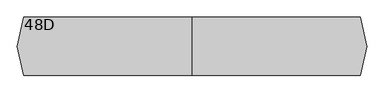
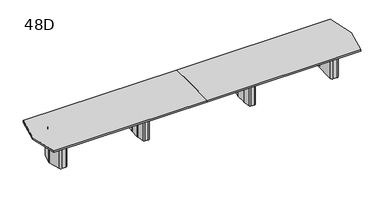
"""IFC4 building model written with IfcOpenShell, lengths in millimetres: furniture geometry, Coalesse_AM_Table_Conference_ETable2_Faceted_24ft_FourBase : 48D."""

from ifc_helpers import new_model, si_unit, frame, origin, place, context, project, spatial, polyline, circle_curve, outline, extrude, source, transform, mapped, element, save
from ifc_brep_helpers import plane_surface, cylinder_surface, revolved_surface, advanced_brep


def furniture_48d_a914894a(model_context):
    return source(origin(), model_context, "Body", "SolidModel", [
        advanced_brep(
        [(1254.91875, 206.375, 3.175), (1229.51875, 231.775, 3.175), (1208.88125, 231.775, 3.175), (1183.48125, 206.375, 3.175), (1183.48125, -206.375, 3.175), (1208.88125, -231.775, 3.175), (1229.51875, -231.775, 3.175), (1254.91875, -206.375, 3.175), (1158.08125, 206.375, 0.0), (1208.88125, 257.175, 0.0), (1229.51875, 257.175, 0.0), (1280.31875, 206.375, 0.0), (1280.31875, -206.375, 0.0), (1229.51875, -257.175, 0.0), (1208.88125, -257.175, 0.0), (1158.08125, -206.375, 0.0), (1158.08125, -206.375, 3.175), (1158.08125, 206.375, 3.175), (1208.88125, -257.175, 3.175), (1229.51875, -257.175, 3.175), (1280.31875, -206.375, 3.175), (1280.31875, 206.375, 3.175), (1229.51875, 257.175, 3.175), (1208.88125, 257.175, 3.175), (1126.5784026, 106.2976848, 698.5), (1126.33125, 102.7629613, 698.5), (1126.33125, -102.7629613, 698.5), (1126.5784026, -106.2976848, 698.5), (1151.4011625, -282.9347235, 698.5), (1176.5540098, -304.8, 698.5), (1261.8459902, -304.8, 698.5), (1286.9988375, -282.9347235, 698.5), (1311.8215974, -106.2976848, 698.5), (1312.06875, -102.7629613, 698.5), (1312.06875, 102.7629613, 698.5), (1311.8215974, 106.2976848, 698.5), (1286.9988375, 282.9347235, 698.5), (1261.8459902, 304.8, 698.5), (1176.5540098, 304.8, 698.5), (1151.4011625, 282.9347235, 698.5), (1229.51875, 231.775, 698.5), (1254.91875, 206.375, 698.5), (1254.91875, -206.375, 698.5), (1229.51875, -231.775, 698.5), (1208.88125, -231.775, 698.5), (1183.48125, -206.375, 698.5), (1183.48125, 206.375, 698.5), (1208.88125, 231.775, 698.5), (1126.5784026, 106.2976848, 3.175), (1151.4011625, 282.9347235, 3.175), (1176.5540098, 304.8, 3.175), (1261.8459902, 304.8, 3.175), (1286.9988375, 282.9347235, 3.175), (1311.8215974, 106.2976848, 3.175), (1312.06875, 102.7629613, 3.175), (1312.06875, -102.7629613, 3.175), (1311.8215974, -106.2976848, 3.175), (1286.9988375, -282.9347235, 3.175), (1261.8459902, -304.8, 3.175), (1176.5540098, -304.8, 3.175), (1151.4011625, -282.9347235, 3.175), (1126.5784026, -106.2976848, 3.175), (1126.33125, -102.7629613, 3.175), (1126.33125, 102.7629613, 3.175)],
        [
            (0, 1, circle_curve(frame((1229.51875, 206.375, 3.175), z_axis=(0.0, 0.0, 1.0), x_axis=(1.0, 0.0, 0.0)), 25.4)),
            (1, 2),
            (2, 3, circle_curve(frame((1208.88125, 206.375, 3.175), z_axis=(0.0, 0.0, 1.0), x_axis=(1.0, 0.0, 0.0)), 25.4)),
            (3, 4),
            (4, 5, circle_curve(frame((1208.88125, -206.375, 3.175), z_axis=(0.0, 0.0, 1.0), x_axis=(1.0, 0.0, 0.0)), 25.4)),
            (5, 6),
            (6, 7, circle_curve(frame((1229.51875, -206.375, 3.175), z_axis=(0.0, 0.0, 1.0), x_axis=(1.0, 0.0, 0.0)), 25.4)),
            (7, 0),
            (8, 9, circle_curve(frame((1208.88125, 206.375, 0.0), z_axis=(0.0, 0.0, -1.0), x_axis=(1.0, 0.0, 0.0)), 50.8)),
            (9, 10),
            (10, 11, circle_curve(frame((1229.51875, 206.375, 0.0), z_axis=(0.0, 0.0, -1.0), x_axis=(1.0, 0.0, 0.0)), 50.8)),
            (11, 12),
            (12, 13, circle_curve(frame((1229.51875, -206.375, 0.0), z_axis=(0.0, 0.0, -1.0), x_axis=(1.0, 0.0, 0.0)), 50.8)),
            (13, 14),
            (14, 15, circle_curve(frame((1208.88125, -206.375, 0.0), z_axis=(0.0, 0.0, -1.0), x_axis=(1.0, 0.0, 0.0)), 50.8)),
            (15, 8),
            (15, 16),
            (16, 17),
            (17, 8),
            (14, 18),
            (18, 16, circle_curve(frame((1208.88125, -206.375, 3.175), z_axis=(0.0, 0.0, -1.0), x_axis=(1.0, 0.0, 0.0)), 50.8)),
            (13, 19),
            (19, 18),
            (12, 20),
            (20, 19, circle_curve(frame((1229.51875, -206.375, 3.175), z_axis=(0.0, 0.0, -1.0), x_axis=(1.0, 0.0, 0.0)), 50.8)),
            (11, 21),
            (21, 20),
            (10, 22),
            (22, 21, circle_curve(frame((1229.51875, 206.375, 3.175), z_axis=(0.0, 0.0, -1.0), x_axis=(1.0, 0.0, 0.0)), 50.8)),
            (9, 23),
            (23, 22),
            (17, 23, circle_curve(frame((1208.88125, 206.375, 3.175), z_axis=(0.0, 0.0, -1.0), x_axis=(1.0, 0.0, 0.0)), 50.8)),
            (24, 25, circle_curve(frame((1151.73125, 102.7629613, 698.5), z_axis=(0.0, 0.0, 1.0), x_axis=(1.0, 0.0, 0.0)), 25.4)),
            (25, 26),
            (26, 27, circle_curve(frame((1151.73125, -102.7629613, 698.5), z_axis=(0.0, 0.0, 1.0), x_axis=(1.0, 0.0, 0.0)), 25.4)),
            (27, 28),
            (28, 29, circle_curve(frame((1176.5540098, -279.4, 698.5), z_axis=(0.0, 0.0, 1.0), x_axis=(1.0, 0.0, 0.0)), 25.4)),
            (29, 30),
            (30, 31, circle_curve(frame((1261.8459902, -279.4, 698.5), z_axis=(0.0, 0.0, 1.0), x_axis=(1.0, 0.0, 0.0)), 25.4)),
            (31, 32),
            (32, 33, circle_curve(frame((1286.66875, -102.7629613, 698.5), z_axis=(0.0, 0.0, 1.0), x_axis=(1.0, 0.0, 0.0)), 25.4)),
            (33, 34),
            (34, 35, circle_curve(frame((1286.66875, 102.7629613, 698.5), z_axis=(0.0, 0.0, 1.0), x_axis=(1.0, 0.0, 0.0)), 25.4)),
            (35, 36),
            (36, 37, circle_curve(frame((1261.8459902, 279.4, 698.5), z_axis=(0.0, 0.0, 1.0), x_axis=(1.0, 0.0, 0.0)), 25.4)),
            (37, 38),
            (38, 39, circle_curve(frame((1176.5540098, 279.4, 698.5), z_axis=(0.0, 0.0, 1.0), x_axis=(1.0, 0.0, 0.0)), 25.4)),
            (39, 24),
            (40, 41, circle_curve(frame((1229.51875, 206.375, 698.5), z_axis=(0.0, 0.0, -1.0), x_axis=(1.0, 0.0, 0.0)), 25.4)),
            (41, 42),
            (42, 43, circle_curve(frame((1229.51875, -206.375, 698.5), z_axis=(0.0, 0.0, -1.0), x_axis=(1.0, 0.0, 0.0)), 25.4)),
            (43, 44),
            (44, 45, circle_curve(frame((1208.88125, -206.375, 698.5), z_axis=(0.0, 0.0, -1.0), x_axis=(1.0, 0.0, 0.0)), 25.4)),
            (45, 46),
            (46, 47, circle_curve(frame((1208.88125, 206.375, 698.5), z_axis=(0.0, 0.0, -1.0), x_axis=(1.0, 0.0, 0.0)), 25.4)),
            (47, 40),
            (48, 49),
            (49, 50, circle_curve(frame((1176.5540098, 279.4, 3.175), z_axis=(0.0, 0.0, -1.0), x_axis=(1.0, 0.0, 0.0)), 25.4)),
            (50, 51),
            (51, 52, circle_curve(frame((1261.8459902, 279.4, 3.175), z_axis=(0.0, 0.0, -1.0), x_axis=(1.0, 0.0, 0.0)), 25.4)),
            (52, 53),
            (53, 54, circle_curve(frame((1286.66875, 102.7629613, 3.175), z_axis=(0.0, 0.0, -1.0), x_axis=(1.0, 0.0, 0.0)), 25.4)),
            (54, 55),
            (55, 56, circle_curve(frame((1286.66875, -102.7629613, 3.175), z_axis=(0.0, 0.0, -1.0), x_axis=(1.0, 0.0, 0.0)), 25.4)),
            (56, 57),
            (57, 58, circle_curve(frame((1261.8459902, -279.4, 3.175), z_axis=(0.0, 0.0, -1.0), x_axis=(1.0, 0.0, 0.0)), 25.4)),
            (58, 59),
            (59, 60, circle_curve(frame((1176.5540098, -279.4, 3.175), z_axis=(0.0, 0.0, -1.0), x_axis=(1.0, 0.0, 0.0)), 25.4)),
            (60, 61),
            (61, 62, circle_curve(frame((1151.73125, -102.7629613, 3.175), z_axis=(0.0, 0.0, -1.0), x_axis=(1.0, 0.0, 0.0)), 25.4)),
            (62, 63),
            (63, 48, circle_curve(frame((1151.73125, 102.7629613, 3.175), z_axis=(0.0, 0.0, -1.0), x_axis=(1.0, 0.0, 0.0)), 25.4)),
            (24, 48),
            (63, 25),
            (62, 26),
            (61, 27),
            (60, 28),
            (59, 29),
            (58, 30),
            (57, 31),
            (56, 32),
            (55, 33),
            (54, 34),
            (53, 35),
            (52, 36),
            (51, 37),
            (50, 38),
            (49, 39),
            (40, 1),
            (0, 41),
            (7, 42),
            (6, 43),
            (5, 44),
            (4, 45),
            (3, 46),
            (2, 47),
        ],
        [
            plane_surface(frame((1158.08125, -206.375, 3.175), z_axis=(0.0, 0.0, 1.0), x_axis=(0.0, -1.0, 0.0))),
            plane_surface(frame((1158.08125, -206.375, 0.0), z_axis=(0.0, 0.0, -1.0), x_axis=(0.0, 1.0, 0.0))),
            plane_surface(frame((1158.08125, 206.375, 3.175), z_axis=(-1.0, 0.0, 0.0), x_axis=(0.0, 0.0, -1.0))),
            cylinder_surface(frame((1208.88125, -206.375, 0.0), z_axis=(0.0, 0.0, 1.0), x_axis=(1.0, 0.0, 0.0)), 50.8),
            plane_surface(frame((1208.88125, -257.175, 3.175), z_axis=(0.0, -1.0, 0.0), x_axis=(0.0, 0.0, -1.0))),
            cylinder_surface(frame((1229.51875, -206.375, 0.0), z_axis=(0.0, 0.0, 1.0), x_axis=(1.0, 0.0, 0.0)), 50.8),
            plane_surface(frame((1280.31875, -206.375, 3.175), z_axis=(1.0, 0.0, 0.0), x_axis=(0.0, 0.0, -1.0))),
            cylinder_surface(frame((1229.51875, 206.375, 0.0), z_axis=(0.0, 0.0, 1.0), x_axis=(1.0, 0.0, 0.0)), 50.8),
            plane_surface(frame((1229.51875, 257.175, 3.175), z_axis=(0.0, 1.0, 0.0), x_axis=(0.0, 0.0, -1.0))),
            cylinder_surface(frame((1208.88125, 206.375, 0.0), z_axis=(0.0, 0.0, 1.0), x_axis=(1.0, 0.0, 0.0)), 50.8),
            plane_surface(frame((1177.13125, 102.7629613, 698.5), z_axis=(0.0, 0.0, 1.0), x_axis=(0.0, 1.0, 0.0))),
            plane_surface(frame((1177.13125, 102.7629613, 3.175), z_axis=(0.0, 0.0, -1.0), x_axis=(0.0, -1.0, 0.0))),
            cylinder_surface(frame((1151.73125, 102.7629613, 3.175), z_axis=(0.0, 0.0, 1.0), x_axis=(1.0, 0.0, 0.0)), 25.4),
            plane_surface(frame((1126.33125, 102.7629613, 698.5), z_axis=(-1.0, 0.0, 0.0), x_axis=(0.0, 0.0, -1.0))),
            cylinder_surface(frame((1151.73125, -102.7629613, 3.175), z_axis=(0.0, 0.0, 1.0), x_axis=(1.0, 0.0, 0.0)), 25.4),
            plane_surface(frame((1126.5784026, -106.2976848, 698.5), z_axis=(-0.9902695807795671, -0.13916234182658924, 0.0), x_axis=(0.0, 0.0, -1.0))),
            cylinder_surface(frame((1176.5540098, -279.4, 3.175), z_axis=(0.0, 0.0, 1.0), x_axis=(1.0, 0.0, 0.0)), 25.4),
            plane_surface(frame((1176.5540098, -304.8, 698.5), z_axis=(0.0, -1.0, 0.0), x_axis=(0.0, 0.0, -1.0))),
            cylinder_surface(frame((1261.8459902, -279.4, 3.175), z_axis=(0.0, 0.0, 1.0), x_axis=(1.0, 0.0, 0.0)), 25.4),
            plane_surface(frame((1286.9988375, -282.9347235, 698.5), z_axis=(0.9902695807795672, -0.13916234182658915, 0.0), x_axis=(0.0, 0.0, -1.0))),
            cylinder_surface(frame((1286.66875, -102.7629613, 3.175), z_axis=(0.0, 0.0, 1.0), x_axis=(1.0, 0.0, 0.0)), 25.4),
            plane_surface(frame((1312.06875, -102.7629613, 698.5), z_axis=(1.0, 0.0, 0.0), x_axis=(0.0, 0.0, -1.0))),
            cylinder_surface(frame((1286.66875, 102.7629613, 3.175), z_axis=(0.0, 0.0, 1.0), x_axis=(1.0, 0.0, 0.0)), 25.4),
            plane_surface(frame((1311.8215974, 106.2976848, 698.5), z_axis=(0.9902695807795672, 0.1391623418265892, 0.0), x_axis=(0.0, 0.0, -1.0))),
            cylinder_surface(frame((1261.8459902, 279.4, 3.175), z_axis=(0.0, 0.0, 1.0), x_axis=(1.0, 0.0, 0.0)), 25.4),
            plane_surface(frame((1261.8459902, 304.8, 698.5), z_axis=(0.0, 1.0, 0.0), x_axis=(0.0, 0.0, -1.0))),
            cylinder_surface(frame((1176.5540098, 279.4, 3.175), z_axis=(0.0, 0.0, 1.0), x_axis=(1.0, 0.0, 0.0)), 25.4),
            plane_surface(frame((1151.4011625, 282.9347235, 698.5), z_axis=(-0.9902695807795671, 0.13916234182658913, 0.0), x_axis=(0.0, 0.0, -1.0))),
            revolved_surface(polyline([(1254.91875, 206.375, 3.175), (1254.91875, 206.375, 698.5)]), (1229.51875, 206.375, 0.0), (0.0, 0.0, -1.0)),
            plane_surface(frame((1254.91875, 206.375, 698.5), z_axis=(-1.0, 0.0, 0.0), x_axis=(0.0, 0.0, -1.0))),
            revolved_surface(polyline([(1254.91875, -206.375, 3.175), (1254.91875, -206.375, 698.5)]), (1229.51875, -206.375, 0.0), (0.0, 0.0, -1.0)),
            plane_surface(frame((1229.51875, -231.775, 698.5), z_axis=(0.0, 1.0, 0.0), x_axis=(0.0, 0.0, -1.0))),
            revolved_surface(polyline([(1234.28125, -206.375, 3.175), (1234.28125, -206.375, 698.5)]), (1208.88125, -206.375, 0.0), (0.0, 0.0, -1.0)),
            plane_surface(frame((1183.48125, -206.375, 698.5), z_axis=(1.0, 0.0, 0.0), x_axis=(0.0, 0.0, -1.0))),
            revolved_surface(polyline([(1234.28125, 206.375, 3.175), (1234.28125, 206.375, 698.5)]), (1208.88125, 206.375, 0.0), (0.0, 0.0, -1.0)),
            plane_surface(frame((1208.88125, 231.775, 698.5), z_axis=(0.0, -1.0, 0.0), x_axis=(0.0, 0.0, -1.0))),
        ],
        [
            (0, [[1, 2, 3, 4, 5, 6, 7, 8]]),
            (1, [[9, 10, 11, 12, 13, 14, 15, 16]]),
            (2, [[-16, 17, 18, 19]]),
            (3, [[-15, 20, 21, -17]]),
            (4, [[-14, 22, 23, -20]]),
            (5, [[-13, 24, 25, -22]]),
            (6, [[-12, 26, 27, -24]]),
            (7, [[-11, 28, 29, -26]]),
            (8, [[-10, 30, 31, -28]]),
            (9, [[-9, -19, 32, -30]]),
            (10, [[33, 34, 35, 36, 37, 38, 39, 40, 41, 42, 43, 44, 45, 46, 47, 48], [49, 50, 51, 52, 53, 54, 55, 56]]),
            (11, [[57, 58, 59, 60, 61, 62, 63, 64, 65, 66, 67, 68, 69, 70, 71, 72], [-18, -21, -23, -25, -27, -29, -31, -32]]),
            (12, [[-33, 73, -72, 74]]),
            (13, [[-34, -74, -71, 75]]),
            (14, [[-35, -75, -70, 76]]),
            (15, [[-36, -76, -69, 77]]),
            (16, [[-37, -77, -68, 78]]),
            (17, [[-38, -78, -67, 79]]),
            (18, [[-39, -79, -66, 80]]),
            (19, [[-40, -80, -65, 81]]),
            (20, [[-41, -81, -64, 82]]),
            (21, [[-42, -82, -63, 83]]),
            (22, [[-43, -83, -62, 84]]),
            (23, [[-44, -84, -61, 85]]),
            (24, [[-45, -85, -60, 86]]),
            (25, [[-46, -86, -59, 87]]),
            (26, [[-47, -87, -58, 88]]),
            (27, [[-48, -88, -57, -73]]),
            (28, [[-49, 89, -1, 90]]),
            (29, [[-50, -90, -8, 91]]),
            (30, [[-51, -91, -7, 92]]),
            (31, [[-52, -92, -6, 93]]),
            (32, [[-53, -93, -5, 94]]),
            (33, [[-54, -94, -4, 95]]),
            (34, [[-55, -95, -3, 96]]),
            (35, [[-56, -96, -2, -89]]),
        ],
    ),
        advanced_brep(
        [(-1183.48125, 206.375, 3.175), (-1208.88125, 231.775, 3.175), (-1229.51875, 231.775, 3.175), (-1254.91875, 206.375, 3.175), (-1254.91875, -206.375, 3.175), (-1229.51875, -231.775, 3.175), (-1208.88125, -231.775, 3.175), (-1183.48125, -206.375, 3.175), (-1280.31875, 206.375, 0.0), (-1229.51875, 257.175, 0.0), (-1208.88125, 257.175, 0.0), (-1158.08125, 206.375, 0.0), (-1158.08125, -206.375, 0.0), (-1208.88125, -257.175, 0.0), (-1229.51875, -257.175, 0.0), (-1280.31875, -206.375, 0.0), (-1280.31875, -206.375, 3.175), (-1280.31875, 206.375, 3.175), (-1229.51875, -257.175, 3.175), (-1208.88125, -257.175, 3.175), (-1158.08125, -206.375, 3.175), (-1158.08125, 206.375, 3.175), (-1208.88125, 257.175, 3.175), (-1229.51875, 257.175, 3.175), (-1311.8215974, 106.2976848, 698.5), (-1312.06875, 102.7629613, 698.5), (-1312.06875, -102.7629613, 698.5), (-1311.8215974, -106.2976848, 698.5), (-1286.9988375, -282.9347235, 698.5), (-1261.8459902, -304.8, 698.5), (-1176.5540098, -304.8, 698.5), (-1151.4011625, -282.9347235, 698.5), (-1126.5784026, -106.2976848, 698.5), (-1126.33125, -102.7629613, 698.5), (-1126.33125, 102.7629613, 698.5), (-1126.5784026, 106.2976848, 698.5), (-1151.4011625, 282.9347235, 698.5), (-1176.5540098, 304.8, 698.5), (-1261.8459902, 304.8, 698.5), (-1286.9988375, 282.9347235, 698.5), (-1208.88125, 231.775, 698.5), (-1183.48125, 206.375, 698.5), (-1183.48125, -206.375, 698.5), (-1208.88125, -231.775, 698.5), (-1229.51875, -231.775, 698.5), (-1254.91875, -206.375, 698.5), (-1254.91875, 206.375, 698.5), (-1229.51875, 231.775, 698.5), (-1311.8215974, 106.2976848, 3.175), (-1286.9988375, 282.9347235, 3.175), (-1261.8459902, 304.8, 3.175), (-1176.5540098, 304.8, 3.175), (-1151.4011625, 282.9347235, 3.175), (-1126.5784026, 106.2976848, 3.175), (-1126.33125, 102.7629613, 3.175), (-1126.33125, -102.7629613, 3.175), (-1126.5784026, -106.2976848, 3.175), (-1151.4011625, -282.9347235, 3.175), (-1176.5540098, -304.8, 3.175), (-1261.8459902, -304.8, 3.175), (-1286.9988375, -282.9347235, 3.175), (-1311.8215974, -106.2976848, 3.175), (-1312.06875, -102.7629613, 3.175), (-1312.06875, 102.7629613, 3.175)],
        [
            (0, 1, circle_curve(frame((-1208.88125, 206.375, 3.175), z_axis=(0.0, 0.0, 1.0), x_axis=(1.0, 0.0, 0.0)), 25.4)),
            (1, 2),
            (2, 3, circle_curve(frame((-1229.51875, 206.375, 3.175), z_axis=(0.0, 0.0, 1.0), x_axis=(1.0, 0.0, 0.0)), 25.4)),
            (3, 4),
            (4, 5, circle_curve(frame((-1229.51875, -206.375, 3.175), z_axis=(0.0, 0.0, 1.0), x_axis=(1.0, 0.0, 0.0)), 25.4)),
            (5, 6),
            (6, 7, circle_curve(frame((-1208.88125, -206.375, 3.175), z_axis=(0.0, 0.0, 1.0), x_axis=(1.0, 0.0, 0.0)), 25.4)),
            (7, 0),
            (8, 9, circle_curve(frame((-1229.51875, 206.375, 0.0), z_axis=(0.0, 0.0, -1.0), x_axis=(1.0, 0.0, 0.0)), 50.8)),
            (9, 10),
            (10, 11, circle_curve(frame((-1208.88125, 206.375, 0.0), z_axis=(0.0, 0.0, -1.0), x_axis=(1.0, 0.0, 0.0)), 50.8)),
            (11, 12),
            (12, 13, circle_curve(frame((-1208.88125, -206.375, 0.0), z_axis=(0.0, 0.0, -1.0), x_axis=(1.0, 0.0, 0.0)), 50.8)),
            (13, 14),
            (14, 15, circle_curve(frame((-1229.51875, -206.375, 0.0), z_axis=(0.0, 0.0, -1.0), x_axis=(1.0, 0.0, 0.0)), 50.8)),
            (15, 8),
            (15, 16),
            (16, 17),
            (17, 8),
            (14, 18),
            (18, 16, circle_curve(frame((-1229.51875, -206.375, 3.175), z_axis=(0.0, 0.0, -1.0), x_axis=(1.0, 0.0, 0.0)), 50.8)),
            (13, 19),
            (19, 18),
            (12, 20),
            (20, 19, circle_curve(frame((-1208.88125, -206.375, 3.175), z_axis=(0.0, 0.0, -1.0), x_axis=(1.0, 0.0, 0.0)), 50.8)),
            (11, 21),
            (21, 20),
            (10, 22),
            (22, 21, circle_curve(frame((-1208.88125, 206.375, 3.175), z_axis=(0.0, 0.0, -1.0), x_axis=(1.0, 0.0, 0.0)), 50.8)),
            (9, 23),
            (23, 22),
            (17, 23, circle_curve(frame((-1229.51875, 206.375, 3.175), z_axis=(0.0, 0.0, -1.0), x_axis=(1.0, 0.0, 0.0)), 50.8)),
            (24, 25, circle_curve(frame((-1286.66875, 102.7629613, 698.5), z_axis=(0.0, 0.0, 1.0), x_axis=(1.0, 0.0, 0.0)), 25.4)),
            (25, 26),
            (26, 27, circle_curve(frame((-1286.66875, -102.7629613, 698.5), z_axis=(0.0, 0.0, 1.0), x_axis=(1.0, 0.0, 0.0)), 25.4)),
            (27, 28),
            (28, 29, circle_curve(frame((-1261.8459902, -279.4, 698.5), z_axis=(0.0, 0.0, 1.0), x_axis=(1.0, 0.0, 0.0)), 25.4)),
            (29, 30),
            (30, 31, circle_curve(frame((-1176.5540098, -279.4, 698.5), z_axis=(0.0, 0.0, 1.0), x_axis=(1.0, 0.0, 0.0)), 25.4)),
            (31, 32),
            (32, 33, circle_curve(frame((-1151.73125, -102.7629613, 698.5), z_axis=(0.0, 0.0, 1.0), x_axis=(1.0, 0.0, 0.0)), 25.4)),
            (33, 34),
            (34, 35, circle_curve(frame((-1151.73125, 102.7629613, 698.5), z_axis=(0.0, 0.0, 1.0), x_axis=(1.0, 0.0, 0.0)), 25.4)),
            (35, 36),
            (36, 37, circle_curve(frame((-1176.5540098, 279.4, 698.5), z_axis=(0.0, 0.0, 1.0), x_axis=(1.0, 0.0, 0.0)), 25.4)),
            (37, 38),
            (38, 39, circle_curve(frame((-1261.8459902, 279.4, 698.5), z_axis=(0.0, 0.0, 1.0), x_axis=(1.0, 0.0, 0.0)), 25.4)),
            (39, 24),
            (40, 41, circle_curve(frame((-1208.88125, 206.375, 698.5), z_axis=(0.0, 0.0, -1.0), x_axis=(1.0, 0.0, 0.0)), 25.4)),
            (41, 42),
            (42, 43, circle_curve(frame((-1208.88125, -206.375, 698.5), z_axis=(0.0, 0.0, -1.0), x_axis=(1.0, 0.0, 0.0)), 25.4)),
            (43, 44),
            (44, 45, circle_curve(frame((-1229.51875, -206.375, 698.5), z_axis=(0.0, 0.0, -1.0), x_axis=(1.0, 0.0, 0.0)), 25.4)),
            (45, 46),
            (46, 47, circle_curve(frame((-1229.51875, 206.375, 698.5), z_axis=(0.0, 0.0, -1.0), x_axis=(1.0, 0.0, 0.0)), 25.4)),
            (47, 40),
            (48, 49),
            (49, 50, circle_curve(frame((-1261.8459902, 279.4, 3.175), z_axis=(0.0, 0.0, -1.0), x_axis=(1.0, 0.0, 0.0)), 25.4)),
            (50, 51),
            (51, 52, circle_curve(frame((-1176.5540098, 279.4, 3.175), z_axis=(0.0, 0.0, -1.0), x_axis=(1.0, 0.0, 0.0)), 25.4)),
            (52, 53),
            (53, 54, circle_curve(frame((-1151.73125, 102.7629613, 3.175), z_axis=(0.0, 0.0, -1.0), x_axis=(1.0, 0.0, 0.0)), 25.4)),
            (54, 55),
            (55, 56, circle_curve(frame((-1151.73125, -102.7629613, 3.175), z_axis=(0.0, 0.0, -1.0), x_axis=(1.0, 0.0, 0.0)), 25.4)),
            (56, 57),
            (57, 58, circle_curve(frame((-1176.5540098, -279.4, 3.175), z_axis=(0.0, 0.0, -1.0), x_axis=(1.0, 0.0, 0.0)), 25.4)),
            (58, 59),
            (59, 60, circle_curve(frame((-1261.8459902, -279.4, 3.175), z_axis=(0.0, 0.0, -1.0), x_axis=(1.0, 0.0, 0.0)), 25.4)),
            (60, 61),
            (61, 62, circle_curve(frame((-1286.66875, -102.7629613, 3.175), z_axis=(0.0, 0.0, -1.0), x_axis=(1.0, 0.0, 0.0)), 25.4)),
            (62, 63),
            (63, 48, circle_curve(frame((-1286.66875, 102.7629613, 3.175), z_axis=(0.0, 0.0, -1.0), x_axis=(1.0, 0.0, 0.0)), 25.4)),
            (24, 48),
            (63, 25),
            (62, 26),
            (61, 27),
            (60, 28),
            (59, 29),
            (58, 30),
            (57, 31),
            (56, 32),
            (55, 33),
            (54, 34),
            (53, 35),
            (52, 36),
            (51, 37),
            (50, 38),
            (49, 39),
            (40, 1),
            (0, 41),
            (7, 42),
            (6, 43),
            (5, 44),
            (4, 45),
            (3, 46),
            (2, 47),
        ],
        [
            plane_surface(frame((-1280.31875, -206.375, 3.175), z_axis=(0.0, 0.0, 1.0), x_axis=(0.0, -1.0, 0.0))),
            plane_surface(frame((-1280.31875, -206.375, 0.0), z_axis=(0.0, 0.0, -1.0), x_axis=(0.0, 1.0, 0.0))),
            plane_surface(frame((-1280.31875, 206.375, 3.175), z_axis=(-1.0, 0.0, 0.0), x_axis=(0.0, 0.0, -1.0))),
            cylinder_surface(frame((-1229.51875, -206.375, 0.0), z_axis=(0.0, 0.0, 1.0), x_axis=(1.0, 0.0, 0.0)), 50.8),
            plane_surface(frame((-1229.51875, -257.175, 3.175), z_axis=(0.0, -1.0, 0.0), x_axis=(0.0, 0.0, -1.0))),
            cylinder_surface(frame((-1208.88125, -206.375, 0.0), z_axis=(0.0, 0.0, 1.0), x_axis=(1.0, 0.0, 0.0)), 50.8),
            plane_surface(frame((-1158.08125, -206.375, 3.175), z_axis=(1.0, 0.0, 0.0), x_axis=(0.0, 0.0, -1.0))),
            cylinder_surface(frame((-1208.88125, 206.375, 0.0), z_axis=(0.0, 0.0, 1.0), x_axis=(1.0, 0.0, 0.0)), 50.8),
            plane_surface(frame((-1208.88125, 257.175, 3.175), z_axis=(0.0, 1.0, 0.0), x_axis=(0.0, 0.0, -1.0))),
            cylinder_surface(frame((-1229.51875, 206.375, 0.0), z_axis=(0.0, 0.0, 1.0), x_axis=(1.0, 0.0, 0.0)), 50.8),
            plane_surface(frame((-1261.26875, 102.7629613, 698.5), z_axis=(0.0, 0.0, 1.0), x_axis=(0.0, 1.0, 0.0))),
            plane_surface(frame((-1261.26875, 102.7629613, 3.175), z_axis=(0.0, 0.0, -1.0), x_axis=(0.0, -1.0, 0.0))),
            cylinder_surface(frame((-1286.66875, 102.7629613, 3.175), z_axis=(0.0, 0.0, 1.0), x_axis=(1.0, 0.0, 0.0)), 25.4),
            plane_surface(frame((-1312.06875, 102.7629613, 698.5), z_axis=(-1.0, 0.0, 0.0), x_axis=(0.0, 0.0, -1.0))),
            cylinder_surface(frame((-1286.66875, -102.7629613, 3.175), z_axis=(0.0, 0.0, 1.0), x_axis=(1.0, 0.0, 0.0)), 25.4),
            plane_surface(frame((-1311.8215974, -106.2976848, 698.5), z_axis=(-0.9902695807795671, -0.13916234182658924, 0.0), x_axis=(0.0, 0.0, -1.0))),
            cylinder_surface(frame((-1261.8459902, -279.4, 3.175), z_axis=(0.0, 0.0, 1.0), x_axis=(1.0, 0.0, 0.0)), 25.4),
            plane_surface(frame((-1261.8459902, -304.8, 698.5), z_axis=(0.0, -1.0, 0.0), x_axis=(0.0, 0.0, -1.0))),
            cylinder_surface(frame((-1176.5540098, -279.4, 3.175), z_axis=(0.0, 0.0, 1.0), x_axis=(1.0, 0.0, 0.0)), 25.4),
            plane_surface(frame((-1151.4011625, -282.9347235, 698.5), z_axis=(0.9902695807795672, -0.13916234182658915, 0.0), x_axis=(0.0, 0.0, -1.0))),
            cylinder_surface(frame((-1151.73125, -102.7629613, 3.175), z_axis=(0.0, 0.0, 1.0), x_axis=(1.0, 0.0, 0.0)), 25.4),
            plane_surface(frame((-1126.33125, -102.7629613, 698.5), z_axis=(1.0, 0.0, 0.0), x_axis=(0.0, 0.0, -1.0))),
            cylinder_surface(frame((-1151.73125, 102.7629613, 3.175), z_axis=(0.0, 0.0, 1.0), x_axis=(1.0, 0.0, 0.0)), 25.4),
            plane_surface(frame((-1126.5784026, 106.2976848, 698.5), z_axis=(0.9902695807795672, 0.1391623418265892, 0.0), x_axis=(0.0, 0.0, -1.0))),
            cylinder_surface(frame((-1176.5540098, 279.4, 3.175), z_axis=(0.0, 0.0, 1.0), x_axis=(1.0, 0.0, 0.0)), 25.4),
            plane_surface(frame((-1176.5540098, 304.8, 698.5), z_axis=(0.0, 1.0, 0.0), x_axis=(0.0, 0.0, -1.0))),
            cylinder_surface(frame((-1261.8459902, 279.4, 3.175), z_axis=(0.0, 0.0, 1.0), x_axis=(1.0, 0.0, 0.0)), 25.4),
            plane_surface(frame((-1286.9988375, 282.9347235, 698.5), z_axis=(-0.9902695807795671, 0.13916234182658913, 0.0), x_axis=(0.0, 0.0, -1.0))),
            revolved_surface(polyline([(-1183.4812499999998, 206.375, 3.175), (-1183.4812499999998, 206.375, 698.5)]), (-1208.88125, 206.375, 0.0), (0.0, 0.0, -1.0)),
            plane_surface(frame((-1183.48125, 206.375, 698.5), z_axis=(-1.0, 0.0, 0.0), x_axis=(0.0, 0.0, -1.0))),
            revolved_surface(polyline([(-1183.4812499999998, -206.375, 3.175), (-1183.4812499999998, -206.375, 698.5)]), (-1208.88125, -206.375, 0.0), (0.0, 0.0, -1.0)),
            plane_surface(frame((-1208.88125, -231.775, 698.5), z_axis=(0.0, 1.0, 0.0), x_axis=(0.0, 0.0, -1.0))),
            revolved_surface(polyline([(-1204.1187499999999, -206.375, 3.175), (-1204.1187499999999, -206.375, 698.5)]), (-1229.51875, -206.375, 0.0), (0.0, 0.0, -1.0)),
            plane_surface(frame((-1254.91875, -206.375, 698.5), z_axis=(1.0, 0.0, 0.0), x_axis=(0.0, 0.0, -1.0))),
            revolved_surface(polyline([(-1204.1187499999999, 206.375, 3.175), (-1204.1187499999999, 206.375, 698.5)]), (-1229.51875, 206.375, 0.0), (0.0, 0.0, -1.0)),
            plane_surface(frame((-1229.51875, 231.775, 698.5), z_axis=(0.0, -1.0, 0.0), x_axis=(0.0, 0.0, -1.0))),
        ],
        [
            (0, [[1, 2, 3, 4, 5, 6, 7, 8]]),
            (1, [[9, 10, 11, 12, 13, 14, 15, 16]]),
            (2, [[-16, 17, 18, 19]]),
            (3, [[-15, 20, 21, -17]]),
            (4, [[-14, 22, 23, -20]]),
            (5, [[-13, 24, 25, -22]]),
            (6, [[-12, 26, 27, -24]]),
            (7, [[-11, 28, 29, -26]]),
            (8, [[-10, 30, 31, -28]]),
            (9, [[-9, -19, 32, -30]]),
            (10, [[33, 34, 35, 36, 37, 38, 39, 40, 41, 42, 43, 44, 45, 46, 47, 48], [49, 50, 51, 52, 53, 54, 55, 56]]),
            (11, [[57, 58, 59, 60, 61, 62, 63, 64, 65, 66, 67, 68, 69, 70, 71, 72], [-18, -21, -23, -25, -27, -29, -31, -32]]),
            (12, [[-33, 73, -72, 74]]),
            (13, [[-34, -74, -71, 75]]),
            (14, [[-35, -75, -70, 76]]),
            (15, [[-36, -76, -69, 77]]),
            (16, [[-37, -77, -68, 78]]),
            (17, [[-38, -78, -67, 79]]),
            (18, [[-39, -79, -66, 80]]),
            (19, [[-40, -80, -65, 81]]),
            (20, [[-41, -81, -64, 82]]),
            (21, [[-42, -82, -63, 83]]),
            (22, [[-43, -83, -62, 84]]),
            (23, [[-44, -84, -61, 85]]),
            (24, [[-45, -85, -60, 86]]),
            (25, [[-46, -86, -59, 87]]),
            (26, [[-47, -87, -58, 88]]),
            (27, [[-48, -88, -57, -73]]),
            (28, [[-49, 89, -1, 90]]),
            (29, [[-50, -90, -8, 91]]),
            (30, [[-51, -91, -7, 92]]),
            (31, [[-52, -92, -6, 93]]),
            (32, [[-53, -93, -5, 94]]),
            (33, [[-54, -94, -4, 95]]),
            (34, [[-55, -95, -3, 96]]),
            (35, [[-56, -96, -2, -89]]),
        ],
    ),
        advanced_brep(
        [(3199.024548, 274.2093613, 698.5), (3159.1579246, 304.8, 698.5), (3070.225, 304.8, 698.5), (3028.95, 263.525, 698.5), (3028.95, -263.525, 698.5), (3070.225, -304.8, 698.5), (3159.1579246, -304.8, 698.5), (3199.024548, -274.2093613, 698.5), (3269.6503901, -10.6333708, 698.5), (3269.6503901, 10.6333708, 698.5), (3067.05, -206.375, 698.5), (3067.05, 206.375, 698.5), (3092.45, 231.775, 698.5), (3151.4608422, 231.775, 698.5), (3175.995338, 212.9490792, 698.5), (3214.6875, 68.54974, 698.5), (3214.6875, -68.54974, 698.5), (3175.995338, -212.9490792, 698.5), (3151.4608422, -231.775, 698.5), (3092.45, -231.775, 698.5), (3199.024548, 274.2093613, 3.175), (3269.6503901, 10.6333708, 3.175), (3269.6503901, -10.6333708, 3.175), (3199.024548, -274.2093613, 3.175), (3159.1579246, -304.8, 3.175), (3070.225, -304.8, 3.175), (3028.95, -263.525, 3.175), (3028.95, 263.525, 3.175), (3070.225, 304.8, 3.175), (3159.1579246, 304.8, 3.175), (3188.2625859, 216.2361187, 3.175), (3151.4608422, 244.475, 3.175), (3092.45, 244.475, 3.175), (3054.35, 206.375, 3.175), (3054.35, -206.375, 3.175), (3092.45, -244.475, 3.175), (3151.4608422, -244.475, 3.175), (3188.2625859, -216.2361187, 3.175), (3227.3875, -70.2217466, 3.175), (3227.3875, 70.2217466, 3.175), (3092.45, -231.775, 3.175), (3067.05, -206.375, 3.175), (3151.4608422, -231.775, 3.175), (3175.995338, -212.9490792, 3.175), (3214.6875, -68.54974, 3.175), (3214.6875, 68.54974, 3.175), (3175.995338, 212.9490792, 3.175), (3151.4608422, 231.775, 3.175), (3092.45, 231.775, 3.175), (3067.05, 206.375, 3.175), (3188.2625859, 216.2361187, 0.0), (3227.3875, 70.2217466, 0.0), (3227.3875, -70.2217466, 0.0), (3188.2625859, -216.2361187, 0.0), (3151.4608422, -244.475, 0.0), (3092.45, -244.475, 0.0), (3054.35, -206.375, 0.0), (3054.35, 206.375, 0.0), (3092.45, 244.475, 0.0), (3151.4608422, 244.475, 0.0)],
        [
            (0, 1, circle_curve(frame((3159.1579246, 263.5270004, 698.5), z_axis=(0.0, 0.0, 1.0), x_axis=(-1.0, 0.0, 0.0)), 41.2729996)),
            (1, 2),
            (2, 3, circle_curve(frame((3070.225, 263.525, 698.5), z_axis=(0.0, 0.0, 1.0), x_axis=(-1.0, 0.0, 0.0)), 41.275)),
            (3, 4),
            (4, 5, circle_curve(frame((3070.225, -263.525, 698.5), z_axis=(0.0, 0.0, 1.0), x_axis=(-1.0, 0.0, 0.0)), 41.275)),
            (5, 6),
            (6, 7, circle_curve(frame((3159.1579246, -263.5270004, 698.5), z_axis=(0.0, 0.0, 1.0), x_axis=(-1.0, 0.0, 0.0)), 41.2729996)),
            (7, 8),
            (8, 9, circle_curve(frame((3229.9665979, 0.0, 698.5), z_axis=(0.0, 0.0, 1.0), x_axis=(-1.0, 0.0, 0.0)), 41.0837187)),
            (9, 0),
            (10, 11),
            (11, 12, circle_curve(frame((3092.45, 206.375, 698.5), z_axis=(0.0, 0.0, -1.0), x_axis=(-1.0, 0.0, 0.0)), 25.4)),
            (12, 13),
            (13, 14, circle_curve(frame((3151.4608422, 206.375, 698.5), z_axis=(0.0, 0.0, -1.0), x_axis=(-1.0, 0.0, 0.0)), 25.4)),
            (14, 15),
            (15, 16),
            (16, 17),
            (17, 18, circle_curve(frame((3151.4608422, -206.375, 698.5), z_axis=(0.0, 0.0, -1.0), x_axis=(-1.0, 0.0, 0.0)), 25.4)),
            (18, 19),
            (19, 10, circle_curve(frame((3092.45, -206.375, 698.5), z_axis=(0.0, 0.0, -1.0), x_axis=(-1.0, 0.0, 0.0)), 25.4)),
            (20, 21),
            (21, 22, circle_curve(frame((3229.9665979, 0.0, 3.175), z_axis=(0.0, 0.0, -1.0), x_axis=(-1.0, 0.0, 0.0)), 41.0837187)),
            (22, 23),
            (23, 24, circle_curve(frame((3159.1579246, -263.5270004, 3.175), z_axis=(0.0, 0.0, -1.0), x_axis=(-1.0, 0.0, 0.0)), 41.2729996)),
            (24, 25),
            (25, 26, circle_curve(frame((3070.225, -263.525, 3.175), z_axis=(0.0, 0.0, -1.0), x_axis=(-1.0, 0.0, 0.0)), 41.275)),
            (26, 27),
            (27, 28, circle_curve(frame((3070.225, 263.525, 3.175), z_axis=(0.0, 0.0, -1.0), x_axis=(-1.0, 0.0, 0.0)), 41.275)),
            (28, 29),
            (29, 20, circle_curve(frame((3159.1579246, 263.5270004, 3.175), z_axis=(0.0, 0.0, -1.0), x_axis=(-1.0, 0.0, 0.0)), 41.2729996)),
            (30, 31, circle_curve(frame((3151.4608422, 206.375, 3.175), z_axis=(0.0, 0.0, 1.0), x_axis=(-1.0, 0.0, 0.0)), 38.1)),
            (31, 32),
            (32, 33, circle_curve(frame((3092.45, 206.375, 3.175), z_axis=(0.0, 0.0, 1.0), x_axis=(-1.0, 0.0, 0.0)), 38.1)),
            (33, 34),
            (34, 35, circle_curve(frame((3092.45, -206.375, 3.175), z_axis=(0.0, 0.0, 1.0), x_axis=(-1.0, 0.0, 0.0)), 38.1)),
            (35, 36),
            (36, 37, circle_curve(frame((3151.4608422, -206.375, 3.175), z_axis=(0.0, 0.0, 1.0), x_axis=(-1.0, 0.0, 0.0)), 38.1)),
            (37, 38),
            (38, 39),
            (39, 30),
            (9, 21),
            (20, 0),
            (8, 22),
            (7, 23),
            (6, 24),
            (5, 25),
            (4, 26),
            (3, 27),
            (2, 28),
            (1, 29),
            (19, 40),
            (40, 41, circle_curve(frame((3092.45, -206.375, 3.175), z_axis=(0.0, 0.0, -1.0), x_axis=(-1.0, 0.0, 0.0)), 25.4)),
            (41, 10),
            (18, 42),
            (42, 40),
            (17, 43),
            (43, 42, circle_curve(frame((3151.4608422, -206.375, 3.175), z_axis=(0.0, 0.0, -1.0), x_axis=(-1.0, 0.0, 0.0)), 25.4)),
            (16, 44),
            (44, 43),
            (15, 45),
            (45, 44),
            (14, 46),
            (46, 45),
            (13, 47),
            (47, 46, circle_curve(frame((3151.4608422, 206.375, 3.175), z_axis=(0.0, 0.0, -1.0), x_axis=(-1.0, 0.0, 0.0)), 25.4)),
            (12, 48),
            (48, 47),
            (11, 49),
            (49, 48, circle_curve(frame((3092.45, 206.375, 3.175), z_axis=(0.0, 0.0, -1.0), x_axis=(-1.0, 0.0, 0.0)), 25.4)),
            (41, 49),
            (50, 51),
            (51, 52),
            (52, 53),
            (53, 54, circle_curve(frame((3151.4608422, -206.375, 0.0), z_axis=(0.0, 0.0, -1.0), x_axis=(-1.0, 0.0, 0.0)), 38.1)),
            (54, 55),
            (55, 56, circle_curve(frame((3092.45, -206.375, 0.0), z_axis=(0.0, 0.0, -1.0), x_axis=(-1.0, 0.0, 0.0)), 38.1)),
            (56, 57),
            (57, 58, circle_curve(frame((3092.45, 206.375, 0.0), z_axis=(0.0, 0.0, -1.0), x_axis=(-1.0, 0.0, 0.0)), 38.1)),
            (58, 59),
            (59, 50, circle_curve(frame((3151.4608422, 206.375, 0.0), z_axis=(0.0, 0.0, -1.0), x_axis=(-1.0, 0.0, 0.0)), 38.1)),
            (50, 30),
            (39, 51),
            (38, 52),
            (37, 53),
            (36, 54),
            (35, 55),
            (34, 56),
            (33, 57),
            (32, 58),
            (31, 59),
        ],
        [
            plane_surface(frame((3269.6374275, 10.6817473, 698.5), z_axis=(0.0, 0.0, 1.0000000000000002), x_axis=(0.25882201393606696, -0.9659250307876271, 0.0))),
            plane_surface(frame((3269.6374275, 10.6817473, 3.175), z_axis=(0.0, 0.0, -1.0000000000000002), x_axis=(-0.25882201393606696, 0.9659250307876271, 0.0))),
            plane_surface(frame((3199.024548, 274.2093613, 698.5), z_axis=(0.9659250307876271, 0.25882201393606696, 0.0), x_axis=(0.0, 0.0, -1.0))),
            cylinder_surface(frame((3229.9665979, 0.0, 3.175), z_axis=(0.0, 0.0, 1.0), x_axis=(-1.0, 0.0, 0.0)), 41.0837187),
            plane_surface(frame((3269.6503901, -10.6333708, 698.5), z_axis=(0.9659250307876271, -0.2588220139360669, 0.0), x_axis=(0.0, 0.0, -1.0))),
            cylinder_surface(frame((3159.1579246, -263.5270004, 3.175), z_axis=(0.0, 0.0, 1.0), x_axis=(-1.0, 0.0, 0.0)), 41.2729996),
            plane_surface(frame((3159.1579246, -304.8, 698.5), z_axis=(0.0, -1.0, 0.0), x_axis=(0.0, 0.0, -1.0))),
            cylinder_surface(frame((3070.225, -263.525, 3.175), z_axis=(0.0, 0.0, 1.0), x_axis=(-1.0, 0.0, 0.0)), 41.275),
            plane_surface(frame((3028.95, -263.525, 698.5), z_axis=(-1.0, 0.0, 0.0), x_axis=(0.0, 0.0, -1.0))),
            cylinder_surface(frame((3070.225, 263.525, 3.175), z_axis=(0.0, 0.0, 1.0), x_axis=(-1.0, 0.0, 0.0)), 41.275),
            plane_surface(frame((3070.225, 304.8, 698.5), z_axis=(0.0, 1.0, 0.0), x_axis=(0.0, 0.0, -1.0))),
            cylinder_surface(frame((3159.1579246, 263.5270004, 3.175), z_axis=(0.0, 0.0, 1.0), x_axis=(-1.0, 0.0, 0.0)), 41.2729996),
            revolved_surface(polyline([(3067.0499999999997, -206.375, 3.175), (3067.0499999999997, -206.375, 698.5)]), (3092.45, -206.375, 0.0), (0.0, 0.0, -1.0)),
            plane_surface(frame((3092.45, -231.775, 698.5), z_axis=(0.0, 1.0, 0.0), x_axis=(0.0, 0.0, -1.0))),
            revolved_surface(polyline([(3126.0608422, -206.375, 3.175), (3126.0608422, -206.375, 698.5)]), (3151.4608422, -206.375, 0.0), (0.0, 0.0, -1.0)),
            plane_surface(frame((3175.995338, -212.9490792, 698.5), z_axis=(-0.9659250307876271, 0.2588220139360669, 0.0), x_axis=(0.0, 0.0, -1.0))),
            plane_surface(frame((3214.6875, -68.54974, 698.5), z_axis=(-1.0, 0.0, 0.0), x_axis=(0.0, 0.0, -1.0))),
            plane_surface(frame((3214.6875, 68.54974, 698.5), z_axis=(-0.9659250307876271, -0.25882201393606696, 0.0), x_axis=(0.0, 0.0, -1.0))),
            revolved_surface(polyline([(3126.0608422, 206.375, 3.175), (3126.0608422, 206.375, 698.5)]), (3151.4608422, 206.375, 0.0), (0.0, 0.0, -1.0)),
            plane_surface(frame((3151.4608422, 231.775, 698.5), z_axis=(0.0, -1.0, 0.0), x_axis=(0.0, 0.0, -1.0))),
            revolved_surface(polyline([(3067.0499999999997, 206.375, 3.175), (3067.0499999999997, 206.375, 698.5)]), (3092.45, 206.375, 0.0), (0.0, 0.0, -1.0)),
            plane_surface(frame((3067.05, 206.375, 698.5), z_axis=(1.0, 0.0, 0.0), x_axis=(0.0, 0.0, -1.0))),
            plane_surface(frame((3226.9547479, 71.8367796, 3.175), z_axis=(0.0, 0.0, 1.0), x_axis=(0.25882201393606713, -0.965925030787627, 0.0))),
            plane_surface(frame((3226.9547479, 71.8367796, 0.0), z_axis=(0.0, 0.0, -1.0), x_axis=(-0.25882201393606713, 0.965925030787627, 0.0))),
            plane_surface(frame((3188.2625859, 216.2361187, 3.175), z_axis=(0.965925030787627, 0.25882201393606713, 0.0), x_axis=(0.0, 0.0, -1.0))),
            plane_surface(frame((3227.3875, 70.2217466, 3.175), z_axis=(1.0, 0.0, 0.0), x_axis=(0.0, 0.0, -1.0))),
            plane_surface(frame((3227.3875, -70.2217466, 3.175), z_axis=(0.9659250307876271, -0.2588220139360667, 0.0), x_axis=(0.0, 0.0, -1.0))),
            cylinder_surface(frame((3151.4608422, -206.375, 0.0), z_axis=(0.0, 0.0, 1.0), x_axis=(-1.0, 0.0, 0.0)), 38.1),
            plane_surface(frame((3151.4608422, -244.475, 3.175), z_axis=(0.0, -1.0, 0.0), x_axis=(0.0, 0.0, -1.0))),
            cylinder_surface(frame((3092.45, -206.375, 0.0), z_axis=(0.0, 0.0, 1.0), x_axis=(-1.0, 0.0, 0.0)), 38.1),
            plane_surface(frame((3054.35, -206.375, 3.175), z_axis=(-1.0, 0.0, 0.0), x_axis=(0.0, 0.0, -1.0))),
            cylinder_surface(frame((3092.45, 206.375, 0.0), z_axis=(0.0, 0.0, 1.0), x_axis=(-1.0, 0.0, 0.0)), 38.1),
            plane_surface(frame((3092.45, 244.475, 3.175), z_axis=(0.0, 1.0, 0.0), x_axis=(0.0, 0.0, -1.0))),
            cylinder_surface(frame((3151.4608422, 206.375, 0.0), z_axis=(0.0, 0.0, 1.0), x_axis=(-1.0, 0.0, 0.0)), 38.1),
        ],
        [
            (0, [[1, 2, 3, 4, 5, 6, 7, 8, 9, 10], [11, 12, 13, 14, 15, 16, 17, 18, 19, 20]]),
            (1, [[21, 22, 23, 24, 25, 26, 27, 28, 29, 30], [31, 32, 33, 34, 35, 36, 37, 38, 39, 40]]),
            (2, [[41, -21, 42, -10]]),
            (3, [[43, -22, -41, -9]]),
            (4, [[44, -23, -43, -8]]),
            (5, [[45, -24, -44, -7]]),
            (6, [[46, -25, -45, -6]]),
            (7, [[47, -26, -46, -5]]),
            (8, [[48, -27, -47, -4]]),
            (9, [[49, -28, -48, -3]]),
            (10, [[50, -29, -49, -2]]),
            (11, [[-42, -30, -50, -1]]),
            (12, [[51, 52, 53, -20]]),
            (13, [[54, 55, -51, -19]]),
            (14, [[56, 57, -54, -18]]),
            (15, [[58, 59, -56, -17]]),
            (16, [[60, 61, -58, -16]]),
            (17, [[62, 63, -60, -15]]),
            (18, [[64, 65, -62, -14]]),
            (19, [[66, 67, -64, -13]]),
            (20, [[68, 69, -66, -12]]),
            (21, [[-53, 70, -68, -11]]),
            (22, [[-55, -57, -59, -61, -63, -65, -67, -69, -70, -52]]),
            (23, [[71, 72, 73, 74, 75, 76, 77, 78, 79, 80]]),
            (24, [[81, -40, 82, -71]]),
            (25, [[-82, -39, 83, -72]]),
            (26, [[-83, -38, 84, -73]]),
            (27, [[-84, -37, 85, -74]]),
            (28, [[-85, -36, 86, -75]]),
            (29, [[-86, -35, 87, -76]]),
            (30, [[-87, -34, 88, -77]]),
            (31, [[-88, -33, 89, -78]]),
            (32, [[-89, -32, 90, -79]]),
            (33, [[-90, -31, -81, -80]]),
        ],
    ),
        advanced_brep(
        [(-3210.137048, 274.2093613, 698.5), (-3280.7628901, 10.6333708, 698.5), (-3280.7628901, -10.6333708, 698.5), (-3210.137048, -274.2093613, 698.5), (-3170.2704246, -304.8, 698.5), (-3081.3375, -304.8, 698.5), (-3040.0625, -263.525, 698.5), (-3040.0625, 263.525, 698.5), (-3081.3375, 304.8, 698.5), (-3170.2704246, 304.8, 698.5), (-3078.1625, -206.375, 698.5), (-3103.5625, -231.775, 698.5), (-3162.5733422, -231.775, 698.5), (-3187.107838, -212.9490792, 698.5), (-3225.8, -68.54974, 698.5), (-3225.8, 68.54974, 698.5), (-3187.107838, 212.9490792, 698.5), (-3162.5733422, 231.775, 698.5), (-3103.5625, 231.775, 698.5), (-3078.1625, 206.375, 698.5), (-3210.137048, 274.2093613, 3.175), (-3170.2704246, 304.8, 3.175), (-3081.3375, 304.8, 3.175), (-3040.0625, 263.525, 3.175), (-3040.0625, -263.525, 3.175), (-3081.3375, -304.8, 3.175), (-3170.2704246, -304.8, 3.175), (-3210.137048, -274.2093613, 3.175), (-3280.7628901, -10.6333708, 3.175), (-3280.7628901, 10.6333708, 3.175), (-3199.3750859, 216.2361187, 3.175), (-3238.5, 70.2217466, 3.175), (-3238.5, -70.2217466, 3.175), (-3199.3750859, -216.2361187, 3.175), (-3162.5733422, -244.475, 3.175), (-3103.5625, -244.475, 3.175), (-3065.4625, -206.375, 3.175), (-3065.4625, 206.375, 3.175), (-3103.5625, 244.475, 3.175), (-3162.5733422, 244.475, 3.175), (-3078.1625, -206.375, 3.175), (-3103.5625, -231.775, 3.175), (-3162.5733422, -231.775, 3.175), (-3187.107838, -212.9490792, 3.175), (-3225.8, -68.54974, 3.175), (-3225.8, 68.54974, 3.175), (-3187.107838, 212.9490792, 3.175), (-3162.5733422, 231.775, 3.175), (-3103.5625, 231.775, 3.175), (-3078.1625, 206.375, 3.175), (-3199.3750859, 216.2361187, 0.0), (-3162.5733422, 244.475, 0.0), (-3103.5625, 244.475, 0.0), (-3065.4625, 206.375, 0.0), (-3065.4625, -206.375, 0.0), (-3103.5625, -244.475, 0.0), (-3162.5733422, -244.475, 0.0), (-3199.3750859, -216.2361187, 0.0), (-3238.5, -70.2217466, 0.0), (-3238.5, 70.2217466, 0.0)],
        [
            (0, 1),
            (1, 2, circle_curve(frame((-3241.0790979, 0.0, 698.5), z_axis=(0.0, 0.0, 1.0), x_axis=(1.0, 0.0, 0.0)), 41.0837187)),
            (2, 3),
            (3, 4, circle_curve(frame((-3170.2704246, -263.5270004, 698.5), z_axis=(0.0, 0.0, 1.0), x_axis=(1.0, 0.0, 0.0)), 41.2729996)),
            (4, 5),
            (5, 6, circle_curve(frame((-3081.3375, -263.525, 698.5), z_axis=(0.0, 0.0, 1.0), x_axis=(1.0, 0.0, 0.0)), 41.275)),
            (6, 7),
            (7, 8, circle_curve(frame((-3081.3375, 263.525, 698.5), z_axis=(0.0, 0.0, 1.0), x_axis=(1.0, 0.0, 0.0)), 41.275)),
            (8, 9),
            (9, 0, circle_curve(frame((-3170.2704246, 263.5270004, 698.5), z_axis=(0.0, 0.0, 1.0), x_axis=(1.0, 0.0, 0.0)), 41.2729996)),
            (10, 11, circle_curve(frame((-3103.5625, -206.375, 698.5), z_axis=(0.0, 0.0, -1.0), x_axis=(1.0, 0.0, 0.0)), 25.4)),
            (11, 12),
            (12, 13, circle_curve(frame((-3162.5733422, -206.375, 698.5), z_axis=(0.0, 0.0, -1.0), x_axis=(1.0, 0.0, 0.0)), 25.4)),
            (13, 14),
            (14, 15),
            (15, 16),
            (16, 17, circle_curve(frame((-3162.5733422, 206.375, 698.5), z_axis=(0.0, 0.0, -1.0), x_axis=(1.0, 0.0, 0.0)), 25.4)),
            (17, 18),
            (18, 19, circle_curve(frame((-3103.5625, 206.375, 698.5), z_axis=(0.0, 0.0, -1.0), x_axis=(1.0, 0.0, 0.0)), 25.4)),
            (19, 10),
            (20, 21, circle_curve(frame((-3170.2704246, 263.5270004, 3.175), z_axis=(0.0, 0.0, -1.0), x_axis=(1.0, 0.0, 0.0)), 41.2729996)),
            (21, 22),
            (22, 23, circle_curve(frame((-3081.3375, 263.525, 3.175), z_axis=(0.0, 0.0, -1.0), x_axis=(1.0, 0.0, 0.0)), 41.275)),
            (23, 24),
            (24, 25, circle_curve(frame((-3081.3375, -263.525, 3.175), z_axis=(0.0, 0.0, -1.0), x_axis=(1.0, 0.0, 0.0)), 41.275)),
            (25, 26),
            (26, 27, circle_curve(frame((-3170.2704246, -263.5270004, 3.175), z_axis=(0.0, 0.0, -1.0), x_axis=(1.0, 0.0, 0.0)), 41.2729996)),
            (27, 28),
            (28, 29, circle_curve(frame((-3241.0790979, 0.0, 3.175), z_axis=(0.0, 0.0, -1.0), x_axis=(1.0, 0.0, 0.0)), 41.0837187)),
            (29, 20),
            (30, 31),
            (31, 32),
            (32, 33),
            (33, 34, circle_curve(frame((-3162.5733422, -206.375, 3.175), z_axis=(0.0, 0.0, 1.0), x_axis=(1.0, 0.0, 0.0)), 38.1)),
            (34, 35),
            (35, 36, circle_curve(frame((-3103.5625, -206.375, 3.175), z_axis=(0.0, 0.0, 1.0), x_axis=(1.0, 0.0, 0.0)), 38.1)),
            (36, 37),
            (37, 38, circle_curve(frame((-3103.5625, 206.375, 3.175), z_axis=(0.0, 0.0, 1.0), x_axis=(1.0, 0.0, 0.0)), 38.1)),
            (38, 39),
            (39, 30, circle_curve(frame((-3162.5733422, 206.375, 3.175), z_axis=(0.0, 0.0, 1.0), x_axis=(1.0, 0.0, 0.0)), 38.1)),
            (0, 20),
            (29, 1),
            (28, 2),
            (27, 3),
            (26, 4),
            (25, 5),
            (24, 6),
            (23, 7),
            (22, 8),
            (21, 9),
            (10, 40),
            (40, 41, circle_curve(frame((-3103.5625, -206.375, 3.175), z_axis=(0.0, 0.0, -1.0), x_axis=(1.0, 0.0, 0.0)), 25.4)),
            (41, 11),
            (41, 42),
            (42, 12),
            (42, 43, circle_curve(frame((-3162.5733422, -206.375, 3.175), z_axis=(0.0, 0.0, -1.0), x_axis=(1.0, 0.0, 0.0)), 25.4)),
            (43, 13),
            (43, 44),
            (44, 14),
            (44, 45),
            (45, 15),
            (45, 46),
            (46, 16),
            (46, 47, circle_curve(frame((-3162.5733422, 206.375, 3.175), z_axis=(0.0, 0.0, -1.0), x_axis=(1.0, 0.0, 0.0)), 25.4)),
            (47, 17),
            (47, 48),
            (48, 18),
            (48, 49, circle_curve(frame((-3103.5625, 206.375, 3.175), z_axis=(0.0, 0.0, -1.0), x_axis=(1.0, 0.0, 0.0)), 25.4)),
            (49, 19),
            (49, 40),
            (50, 51, circle_curve(frame((-3162.5733422, 206.375, 0.0), z_axis=(0.0, 0.0, -1.0), x_axis=(1.0, 0.0, 0.0)), 38.1)),
            (51, 52),
            (52, 53, circle_curve(frame((-3103.5625, 206.375, 0.0), z_axis=(0.0, 0.0, -1.0), x_axis=(1.0, 0.0, 0.0)), 38.1)),
            (53, 54),
            (54, 55, circle_curve(frame((-3103.5625, -206.375, 0.0), z_axis=(0.0, 0.0, -1.0), x_axis=(1.0, 0.0, 0.0)), 38.1)),
            (55, 56),
            (56, 57, circle_curve(frame((-3162.5733422, -206.375, 0.0), z_axis=(0.0, 0.0, -1.0), x_axis=(1.0, 0.0, 0.0)), 38.1)),
            (57, 58),
            (58, 59),
            (59, 50),
            (59, 31),
            (30, 50),
            (58, 32),
            (57, 33),
            (56, 34),
            (55, 35),
            (54, 36),
            (53, 37),
            (52, 38),
            (51, 39),
        ],
        [
            plane_surface(frame((-3280.7499275, 10.6817473, 698.5), z_axis=(0.0, 0.0, 1.0000000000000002), x_axis=(-0.25882201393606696, -0.9659250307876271, 0.0))),
            plane_surface(frame((-3280.7499275, 10.6817473, 3.175), z_axis=(0.0, 0.0, -1.0000000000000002), x_axis=(0.25882201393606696, 0.9659250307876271, 0.0))),
            plane_surface(frame((-3210.137048, 274.2093613, 698.5), z_axis=(-0.9659250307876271, 0.25882201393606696, 0.0), x_axis=(0.0, 0.0, -1.0))),
            cylinder_surface(frame((-3241.0790979, 0.0, 3.175), z_axis=(0.0, 0.0, 1.0), x_axis=(1.0, 0.0, 0.0)), 41.0837187),
            plane_surface(frame((-3280.7628901, -10.6333708, 698.5), z_axis=(-0.9659250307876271, -0.2588220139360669, 0.0), x_axis=(0.0, 0.0, -1.0))),
            cylinder_surface(frame((-3170.2704246, -263.5270004, 3.175), z_axis=(0.0, 0.0, 1.0), x_axis=(1.0, 0.0, 0.0)), 41.2729996),
            plane_surface(frame((-3170.2704246, -304.8, 698.5), z_axis=(0.0, -1.0, 0.0), x_axis=(0.0, 0.0, -1.0))),
            cylinder_surface(frame((-3081.3375, -263.525, 3.175), z_axis=(0.0, 0.0, 1.0), x_axis=(1.0, 0.0, 0.0)), 41.275),
            plane_surface(frame((-3040.0625, -263.525, 698.5), z_axis=(1.0, 0.0, 0.0), x_axis=(0.0, 0.0, -1.0))),
            cylinder_surface(frame((-3081.3375, 263.525, 3.175), z_axis=(0.0, 0.0, 1.0), x_axis=(1.0, 0.0, 0.0)), 41.275),
            plane_surface(frame((-3081.3375, 304.8, 698.5), z_axis=(0.0, 1.0, 0.0), x_axis=(0.0, 0.0, -1.0))),
            cylinder_surface(frame((-3170.2704246, 263.5270004, 3.175), z_axis=(0.0, 0.0, 1.0), x_axis=(1.0, 0.0, 0.0)), 41.2729996),
            revolved_surface(polyline([(-3078.1625, -206.375, 3.175), (-3078.1625, -206.375, 698.5)]), (-3103.5625, -206.375, 0.0), (0.0, 0.0, -1.0)),
            plane_surface(frame((-3103.5625, -231.775, 698.5), z_axis=(0.0, 1.0, 0.0), x_axis=(0.0, 0.0, -1.0))),
            revolved_surface(polyline([(-3137.1733421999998, -206.375, 3.175), (-3137.1733421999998, -206.375, 698.5)]), (-3162.5733422, -206.375, 0.0), (0.0, 0.0, -1.0)),
            plane_surface(frame((-3187.107838, -212.9490792, 698.5), z_axis=(0.9659250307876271, 0.2588220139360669, 0.0), x_axis=(0.0, 0.0, -1.0))),
            plane_surface(frame((-3225.8, -68.54974, 698.5), z_axis=(1.0, 0.0, 0.0), x_axis=(0.0, 0.0, -1.0))),
            plane_surface(frame((-3225.8, 68.54974, 698.5), z_axis=(0.9659250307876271, -0.25882201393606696, 0.0), x_axis=(0.0, 0.0, -1.0))),
            revolved_surface(polyline([(-3137.1733421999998, 206.375, 3.175), (-3137.1733421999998, 206.375, 698.5)]), (-3162.5733422, 206.375, 0.0), (0.0, 0.0, -1.0)),
            plane_surface(frame((-3162.5733422, 231.775, 698.5), z_axis=(0.0, -1.0, 0.0), x_axis=(0.0, 0.0, -1.0))),
            revolved_surface(polyline([(-3078.1625, 206.375, 3.175), (-3078.1625, 206.375, 698.5)]), (-3103.5625, 206.375, 0.0), (0.0, 0.0, -1.0)),
            plane_surface(frame((-3078.1625, 206.375, 698.5), z_axis=(-1.0, 0.0, 0.0), x_axis=(0.0, 0.0, -1.0))),
            plane_surface(frame((-3238.0672479, 71.8367796, 3.175), z_axis=(0.0, 0.0, 1.0), x_axis=(-0.25882201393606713, -0.965925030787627, 0.0))),
            plane_surface(frame((-3238.0672479, 71.8367796, 0.0), z_axis=(0.0, 0.0, -1.0), x_axis=(0.25882201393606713, 0.965925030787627, 0.0))),
            plane_surface(frame((-3199.3750859, 216.2361187, 3.175), z_axis=(-0.965925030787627, 0.25882201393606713, 0.0), x_axis=(0.0, 0.0, -1.0))),
            plane_surface(frame((-3238.5, 70.2217466, 3.175), z_axis=(-1.0, 0.0, 0.0), x_axis=(0.0, 0.0, -1.0))),
            plane_surface(frame((-3238.5, -70.2217466, 3.175), z_axis=(-0.9659250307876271, -0.2588220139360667, 0.0), x_axis=(0.0, 0.0, -1.0))),
            cylinder_surface(frame((-3162.5733422, -206.375, 0.0), z_axis=(0.0, 0.0, 1.0), x_axis=(1.0, 0.0, 0.0)), 38.1),
            plane_surface(frame((-3162.5733422, -244.475, 3.175), z_axis=(0.0, -1.0, 0.0), x_axis=(0.0, 0.0, -1.0))),
            cylinder_surface(frame((-3103.5625, -206.375, 0.0), z_axis=(0.0, 0.0, 1.0), x_axis=(1.0, 0.0, 0.0)), 38.1),
            plane_surface(frame((-3065.4625, -206.375, 3.175), z_axis=(1.0, 0.0, 0.0), x_axis=(0.0, 0.0, -1.0))),
            cylinder_surface(frame((-3103.5625, 206.375, 0.0), z_axis=(0.0, 0.0, 1.0), x_axis=(1.0, 0.0, 0.0)), 38.1),
            plane_surface(frame((-3103.5625, 244.475, 3.175), z_axis=(0.0, 1.0, 0.0), x_axis=(0.0, 0.0, -1.0))),
            cylinder_surface(frame((-3162.5733422, 206.375, 0.0), z_axis=(0.0, 0.0, 1.0), x_axis=(1.0, 0.0, 0.0)), 38.1),
        ],
        [
            (0, [[1, 2, 3, 4, 5, 6, 7, 8, 9, 10], [11, 12, 13, 14, 15, 16, 17, 18, 19, 20]]),
            (1, [[21, 22, 23, 24, 25, 26, 27, 28, 29, 30], [31, 32, 33, 34, 35, 36, 37, 38, 39, 40]]),
            (2, [[-1, 41, -30, 42]]),
            (3, [[-2, -42, -29, 43]]),
            (4, [[-3, -43, -28, 44]]),
            (5, [[-4, -44, -27, 45]]),
            (6, [[-5, -45, -26, 46]]),
            (7, [[-6, -46, -25, 47]]),
            (8, [[-7, -47, -24, 48]]),
            (9, [[-8, -48, -23, 49]]),
            (10, [[-9, -49, -22, 50]]),
            (11, [[-10, -50, -21, -41]]),
            (12, [[-11, 51, 52, 53]]),
            (13, [[-12, -53, 54, 55]]),
            (14, [[-13, -55, 56, 57]]),
            (15, [[-14, -57, 58, 59]]),
            (16, [[-15, -59, 60, 61]]),
            (17, [[-16, -61, 62, 63]]),
            (18, [[-17, -63, 64, 65]]),
            (19, [[-18, -65, 66, 67]]),
            (20, [[-19, -67, 68, 69]]),
            (21, [[-20, -69, 70, -51]]),
            (22, [[-52, -70, -68, -66, -64, -62, -60, -58, -56, -54]]),
            (23, [[71, 72, 73, 74, 75, 76, 77, 78, 79, 80]]),
            (24, [[-80, 81, -31, 82]]),
            (25, [[-79, 83, -32, -81]]),
            (26, [[-78, 84, -33, -83]]),
            (27, [[-77, 85, -34, -84]]),
            (28, [[-76, 86, -35, -85]]),
            (29, [[-75, 87, -36, -86]]),
            (30, [[-74, 88, -37, -87]]),
            (31, [[-73, 89, -38, -88]]),
            (32, [[-72, 90, -39, -89]]),
            (33, [[-71, -82, -40, -90]]),
        ],
    ),
        extrude(outline(polyline([(3522.4541794, 609.6), (3657.6, 0.0), (3522.4541794, -609.6), (0.0, -609.6), (0.0, 117.879596), (0.0, 609.6), (3522.4541794, 609.6)])), frame((0.0, 0.0, 698.5), z_axis=(0.0, 0.0, 1.0), x_axis=(1.0, 0.0, 0.0)), (0.0, 0.0, 1.0), 38.1),
        extrude(outline(polyline([(0.0, 11.6286897), (0.0, -609.6), (-3522.4541794, -609.6), (-3657.6, 0.0), (-3522.4541794, 609.6), (0.0, 609.6), (0.0, 11.6286897)])), frame((0.0, 0.0, 698.5), z_axis=(0.0, 0.0, 1.0), x_axis=(1.0, 0.0, 0.0)), (0.0, 0.0, 1.0), 38.1),
        extrude(outline(polyline([(96.8375, 698.5), (103.1875, 698.5), (103.1875, 476.25), (-103.1875, 476.25), (-103.1875, 698.5), (-96.8375, 698.5), (-96.8375, 482.6), (96.8375, 482.6), (96.8375, 698.5)])), frame((-3040.0625, 0.0, 0.0), z_axis=(1.0, 0.0, 0.0), x_axis=(0.0, 1.0, 0.0)), (0.0, 0.0, 1.0), 6069.0125),
    ])


if __name__ == "__main__":
    model = new_model("IFC4")
    model_context = context("Model", 3, world=origin())
    ifc_project = project(units=[si_unit("LENGTHUNIT", "METRE", prefix="MILLI")], contexts=[model_context])
    site = spatial("IfcSite", under=ifc_project)
    building = spatial("IfcBuilding", under=site)
    placement = place(None, origin())
    furniture_48d_shape = furniture_48d_a914894a(model_context)
    element("IfcFurniture", 1, ObjectType="Coalesse_AM_Table_Conference_ETable2_Faceted_24ft_FourBase : 48D", at=placement, inside=building, context=model_context, shape_type="MappedRepresentation", body=[
        mapped(furniture_48d_shape, transform((0.0, 0.0, 0.0), x_axis=(1.0, 0.0, 0.0), y_axis=(0.0, 1.0, 0.0), z_axis=(0.0, 0.0, 1.0))),
    ])
    save(model, "model.ifc")
